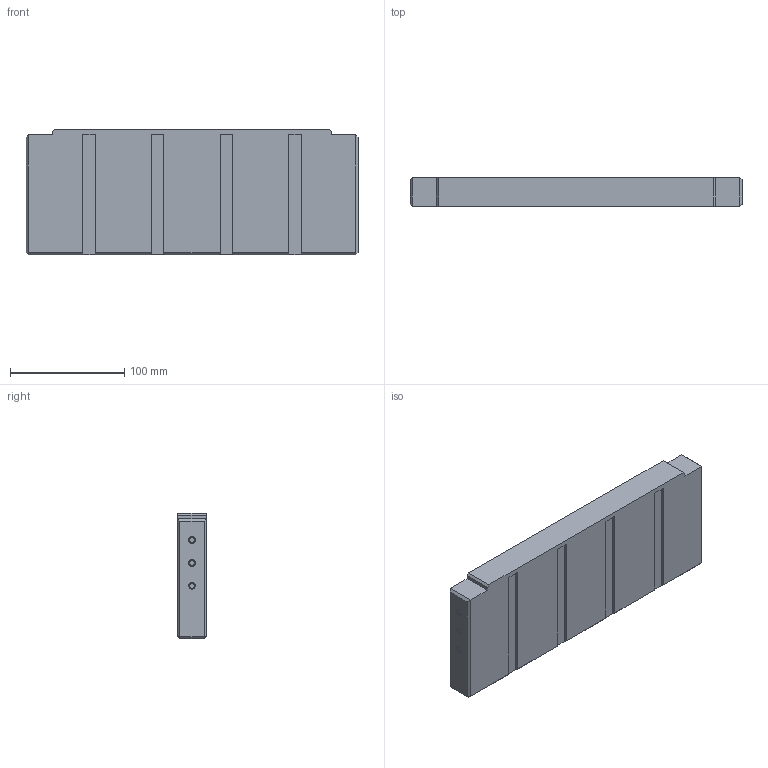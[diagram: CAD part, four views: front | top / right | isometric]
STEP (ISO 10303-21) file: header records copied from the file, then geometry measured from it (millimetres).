
FILE_DESCRIPTION(('CAx-IF Rec.Pracs.---Model Styling and Organization---1.2---2011-12-15','CAx-IF Rec.Pracs.---Geometric and Assembly Validation Properties---4.1---2014-06-16','CAx-IF Rec.Pracs.---PMI Polyline Presentation---2.0---2013-05-24'),'2;1');
FILE_NAME('R5M2GBSS5.stp','2021-05-05T12:53:20+03:00',(''),(''),'STEP Interface 4.4 by CT CoreTechnologie','3D_Evolution4.4 by CT CoreTechnologie','');
FILE_SCHEMA(('AUTOMOTIVE_DESIGN { 1 0 10303 214 1 1 1 1 }'));
Length unit declared in the file: millimetre
Products named in the file (3): R5M2GBSS10; RB.1767.00.00.0; M5x10 DIN 7985 PH cl.4,8 Zinc_stright
Assembly tree (7 placements, depth 2):
  R5M2GBSS10
    RB.1767.00.00.0
    M5x10 DIN 7985 PH cl.4,8 Zinc_stright  x6
Bounding box: 290 x 25 x 110 mm (x, y, z)
Surface area: 89293.3 mm2 (no closed solid volume)
Topology: 0 solids, 7 shells, 120 faces, 272 edges, 172 vertices
Faces by surface type: plane 84, cylinder 24, bspline 12
Entity records: 3200 total; most frequent: CARTESIAN_POINT 658, ORIENTED_EDGE 484, DIRECTION 474, EDGE_CURVE 242, VECTOR 202, LINE 202, VERTEX_POINT 152, AXIS2_PLACEMENT_3D 136
